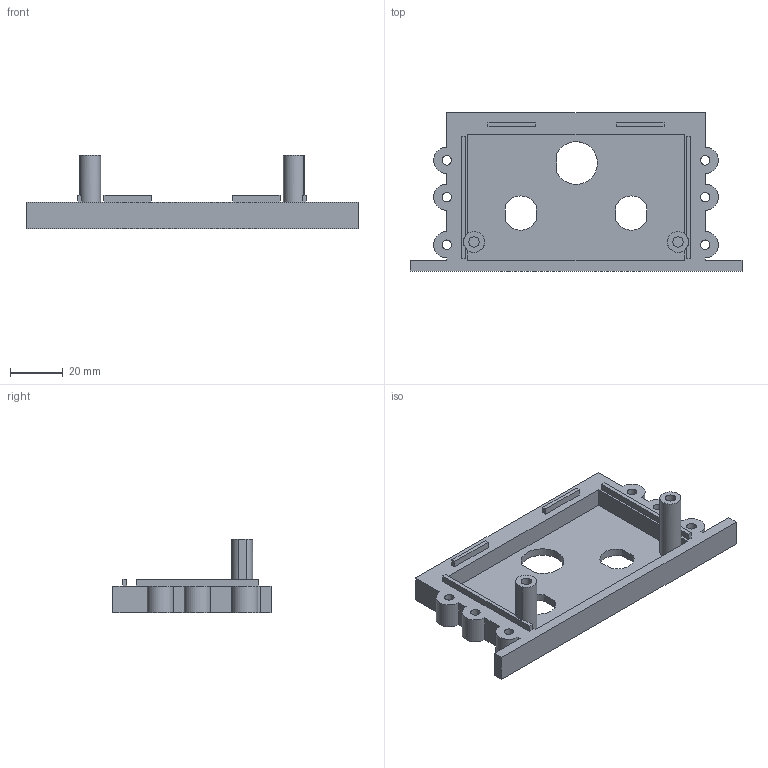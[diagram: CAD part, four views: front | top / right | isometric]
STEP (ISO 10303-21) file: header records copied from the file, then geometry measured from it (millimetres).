
FILE_DESCRIPTION(('FreeCAD Model'),'2;1');
FILE_NAME('Open CASCADE Shape Model','2026-09-11T13:41:27',( '' ),( '' ),'Open CASCADE STEP processor 7.8','FreeCAD','Unknown');
FILE_SCHEMA(('AUTOMOTIVE_DESIGN { 1 0 10303 214 1 1 1 1 }'));
Length unit declared in the file: millimetre
Products named in the file (1): Open CASCADE STEP translator 7.8 6
Bounding box: 126 x 60 x 28 mm (x, y, z)
Volume: 35887.8 mm3; surface area: 20387.7 mm2
Topology: 1 solids, 1 shells, 81 faces, 226 edges, 152 vertices
Faces by surface type: plane 60, cylinder 21
Full cylindrical faces by diameter (mm): 3.6 x6, 4 x2
Entity records: 2652 total; most frequent: CARTESIAN_POINT 460, ORIENTED_EDGE 452, DIRECTION 444, EDGE_CURVE 226, LINE 172, VECTOR 172, VERTEX_POINT 152, AXIS2_PLACEMENT_3D 136
